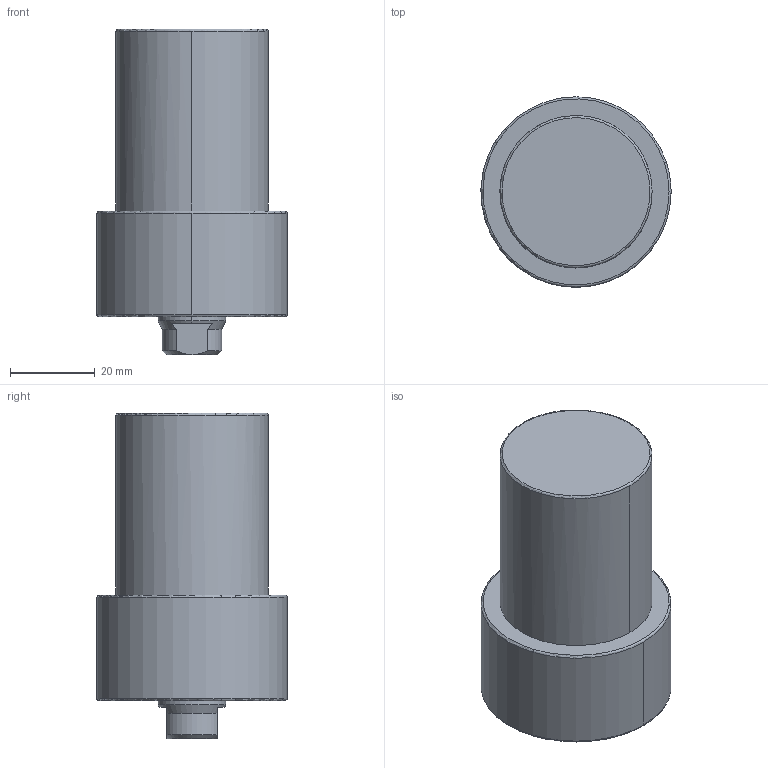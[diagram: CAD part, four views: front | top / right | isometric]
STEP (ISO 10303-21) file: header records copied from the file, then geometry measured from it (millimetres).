
FILE_DESCRIPTION((' '),'2;1');
FILE_NAME( 'TLLU-036GA-035.STEP.stp', '2025-10-24T16:37:04', (' '), ('--- Datakit www.datakit.com---'), ' Datakit CrossCadWare V2024.1 Dec 21 2023', 'Mastercam 2025', ' ');
FILE_SCHEMA(('AUTOMOTIVE_DESIGN { 1 0 10303 214 1 1 1 1 }'));
Length unit declared in the file: millimetre
Products named in the file (1): TLLU-036GA-035
Bounding box: 44.99 x 45 x 77 mm (x, y, z)
Volume: 83935.4 mm3; surface area: 12695 mm2
Topology: 1 solids, 1 shells, 62 faces, 172 edges, 111 vertices
Faces by surface type: cone 24, cylinder 22, plane 10, torus 6
Entity records: 2034 total; most frequent: DIRECTION 386, CARTESIAN_POINT 380, ORIENTED_EDGE 324, AXIS2_PLACEMENT_3D 169, EDGE_CURVE 162, VERTEX_POINT 111, CIRCLE 106, EDGE_LOOP 71
